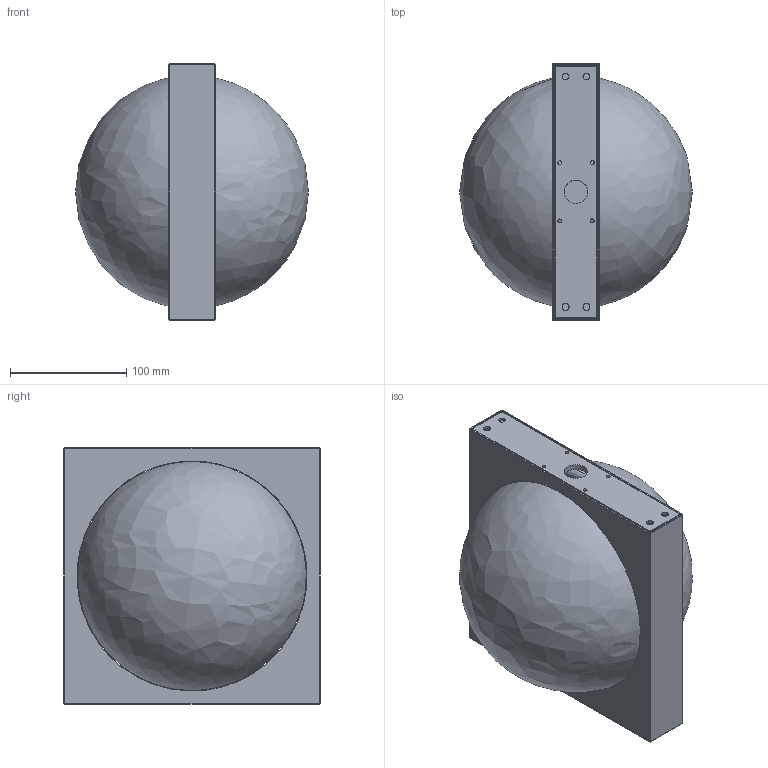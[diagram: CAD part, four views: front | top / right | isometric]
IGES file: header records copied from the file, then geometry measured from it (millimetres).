
Global section: file name: SOLSTICE WALL; native system: Autodesk Inventor 2023; preprocessor: unknown; author: Peter Larkam; date: 20240715.153141; units: millimetre
Bounding box: 200 x 220 x 220 mm (x, y, z)
Volume: 367111.7 mm3; surface area: 384217.8 mm2
Topology: 4 solids, 4 shells, 98 faces, 247 edges, 162 vertices
Faces by surface type: bspline 98
